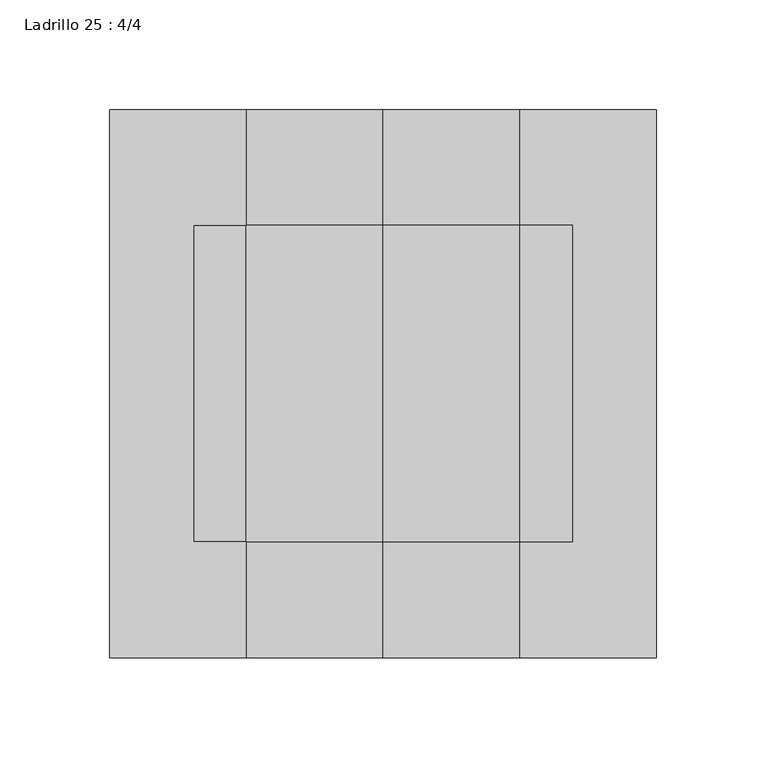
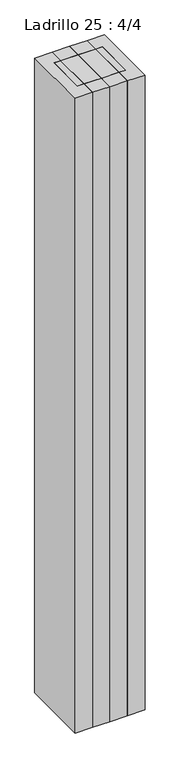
"""IFC4 building model written with IfcOpenShell, lengths in millimetres: column geometry, Ladrillo 25 : 4/4."""

from ifc_helpers import new_model, si_unit, origin, origin_with_axes, place, context, project, spatial, polyline, outline, extrude, source, transform, mapped, element, save


def ladrillo_25_4_4_74b77b86(model_context):
    return source(origin(), model_context, "Body", "SweptSolid", [
        extrude(outline(polyline([(62.4354731, 72.15), (62.4354731, -72.15), (0.0, -72.15), (0.0, 72.15), (62.4354731, 72.15)])), origin_with_axes(), (0.0, 0.0, 1.0), 2400.0),
        extrude(outline(polyline([(0.0, 125.0707458), (62.4354731, 125.0707458), (62.4354731, 72.15), (0.0, 72.15), (0.0, 125.0707458)])), origin_with_axes(), (0.0, 0.0, 1.0), 2400.0),
        extrude(outline(polyline([(62.4354731, -72.15), (62.4354731, -125.0707458), (0.0, -125.0707458), (0.0, -72.15), (62.4354731, -72.15)])), origin_with_axes(), (0.0, 0.0, 1.0), 2400.0),
        extrude(outline(polyline([(62.4354731, 72.15), (86.5, 72.15), (86.5, -72.15), (62.4354731, -72.15), (62.4354731, 72.15)])), origin_with_axes(), (0.0, 0.0, 1.0), 2400.0),
        extrude(outline(polyline([(0.0, 72.15), (0.0, -72.15), (-62.4354731, -72.15), (-62.4354731, 72.15), (0.0, 72.15)])), origin_with_axes(), (0.0, 0.0, 1.0), 2400.0),
        extrude(outline(polyline([(-62.4354731, 125.0707458), (-62.4354731, 72.15), (-86.5, 72.15), (-86.5, -72.15), (-62.4354731, -72.15), (-62.4354731, -125.0707458), (-124.8709462, -125.0707458), (-124.8709462, 125.0707458), (-62.4354731, 125.0707458)])), origin_with_axes(), (0.0, 0.0, 1.0), 2400.0),
        extrude(outline(polyline([(-62.4354731, 125.0707458), (0.0, 125.0707458), (0.0, 72.15), (-62.4354731, 72.15), (-62.4354731, 125.0707458)])), origin_with_axes(), (0.0, 0.0, 1.0), 2400.0),
        extrude(outline(polyline([(0.0, -72.15), (0.0, -125.0707458), (-62.4354731, -125.0707458), (-62.4354731, -72.15), (0.0, -72.15)])), origin_with_axes(), (0.0, 0.0, 1.0), 2400.0),
        extrude(outline(polyline([(62.4354731, 125.0707458), (124.8709462, 125.0707458), (124.8709462, -125.0707458), (62.4354731, -125.0707458), (62.4354731, -72.15), (86.5, -72.15), (86.5, 72.15), (62.4354731, 72.15), (62.4354731, 125.0707458)])), origin_with_axes(), (0.0, 0.0, 1.0), 2400.0),
        extrude(outline(polyline([(-62.4354731, 72.15), (-62.4354731, -72.15), (-86.5, -72.15), (-86.5, 72.15), (-62.4354731, 72.15)])), origin_with_axes(), (0.0, 0.0, 1.0), 2400.0),
    ])


if __name__ == "__main__":
    model = new_model("IFC4")
    model_context = context("Model", 3, world=origin())
    ifc_project = project(units=[si_unit("LENGTHUNIT", "METRE", prefix="MILLI")], contexts=[model_context])
    site = spatial("IfcSite", under=ifc_project)
    building = spatial("IfcBuilding", under=site)
    placement = place(None, origin())
    ladrillo_25_4_4_shape = ladrillo_25_4_4_74b77b86(model_context)
    element("IfcColumn", 1, ObjectType="Ladrillo 25 : 4/4", at=placement, inside=building, context=model_context, shape_type="MappedRepresentation", body=[
        mapped(ladrillo_25_4_4_shape, transform((0.0, 0.0, 0.0), x_axis=(1.0, 0.0, 0.0), y_axis=(0.0, 1.0, 0.0), z_axis=(0.0, 0.0, 1.0))),
    ])
    save(model, "model.ifc")
